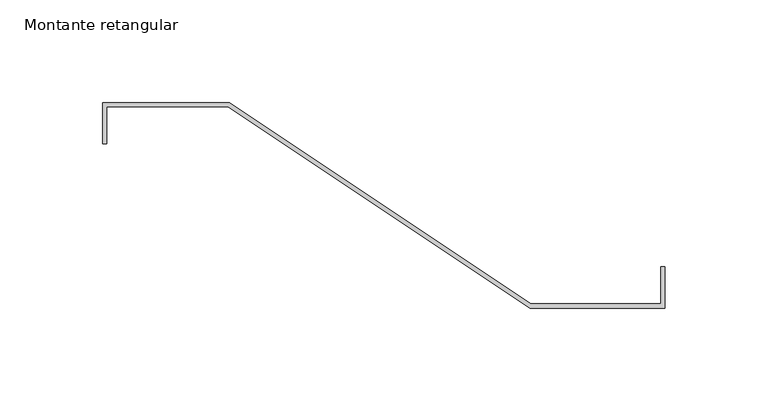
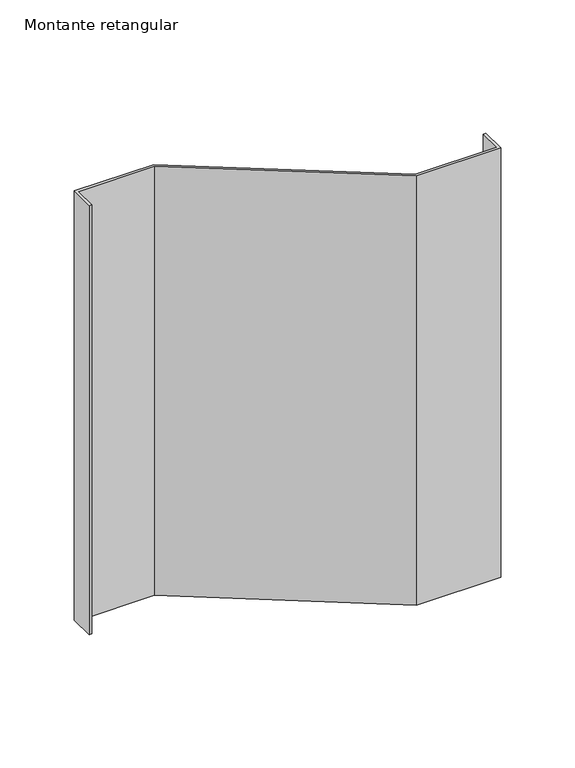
"""IFC4 building model written with IfcOpenShell, lengths in millimetres: member geometry, Montante retangular : FDE_AletaVenezianaIndustrial_Ref100 (Alumínio Anodizado)."""

from ifc_helpers import new_model, si_unit, frame, origin, place, context, project, spatial, polyline, outline, extrude, source, transform, mapped, element, save


def montante_retangular_16e63d6c(model_context):
    return source(origin(), model_context, "Body", "SweptSolid", [
        extrude(outline(polyline([(-212.1972244, 50.0), (-65.1972244, -48.0), (-2.0, -48.0), (-2.0, -30.0), (0.0, -30.0), (0.0, -50.0), (-65.8027756, -50.0), (-212.8027756, 48.0), (-272.0, 48.0), (-272.0, 30.0), (-274.0, 30.0), (-274.0, 50.0), (-212.1972244, 50.0)])), frame((0.0, 0.0, -352.8947371), z_axis=(0.0, 0.0, 1.0), x_axis=(1.0, 0.0, 0.0)), (0.0, 0.0, 1.0), 352.8947371),
    ])


if __name__ == "__main__":
    model = new_model("IFC4")
    model_context = context("Model", 3, world=origin())
    ifc_project = project(units=[si_unit("LENGTHUNIT", "METRE", prefix="MILLI")], contexts=[model_context])
    site = spatial("IfcSite", under=ifc_project)
    building = spatial("IfcBuilding", under=site)
    placement = place(None, origin())
    montante_retangular_shape = montante_retangular_16e63d6c(model_context)
    element("IfcMember", 1, ObjectType="Montante retangular : FDE_AletaVenezianaIndustrial_Ref100 (Alumínio Anodizado)", at=placement, inside=building, context=model_context, shape_type="MappedRepresentation", body=[
        mapped(montante_retangular_shape, transform((0.0, 0.0, 0.0), x_axis=(1.0, 0.0, 0.0), y_axis=(0.0, 1.0, 0.0), z_axis=(0.0, 0.0, 1.0))),
    ])
    save(model, "model.ifc")
